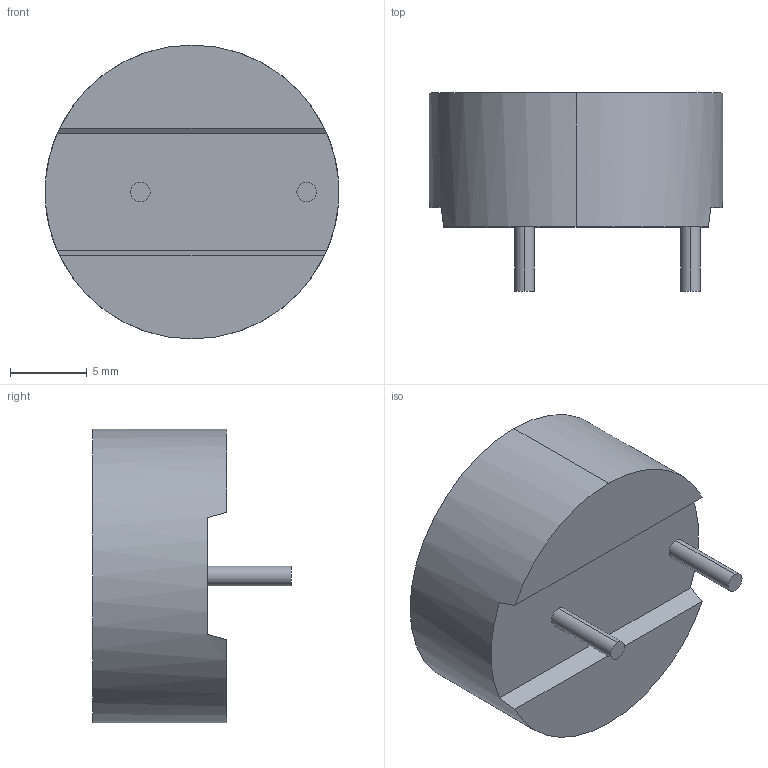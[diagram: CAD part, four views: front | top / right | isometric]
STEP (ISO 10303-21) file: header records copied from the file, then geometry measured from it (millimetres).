
FILE_DESCRIPTION (( 'STEP AP214' ), '1' );
FILE_NAME ('IHTH_IHTH0750IZ 8.2uH.step', '2014-06-30T13:35:14', ( '' ), ( '' ), 'SwSTEP 2.0', 'SolidWorks 2014', '' );
FILE_SCHEMA (( 'AUTOMOTIVE_DESIGN' ));
Length unit declared in the file: inch
Products named in the file (1): IHTH_IHTH0750IZ   8.2uH
Bounding box: 19.18 x 12.93 x 19.18 mm (x, y, z)
Volume: 2349.2 mm3; surface area: 1161.7 mm2
Topology: 1 solids, 1 shells, 39 faces, 90 edges, 60 vertices
Faces by surface type: plane 33, cylinder 6
Entity records: 1231 total; most frequent: CARTESIAN_POINT 202, DIRECTION 182, ORIENTED_EDGE 180, EDGE_CURVE 90, VECTOR 70, LINE 70, VERTEX_POINT 60, AXIS2_PLACEMENT_3D 56
